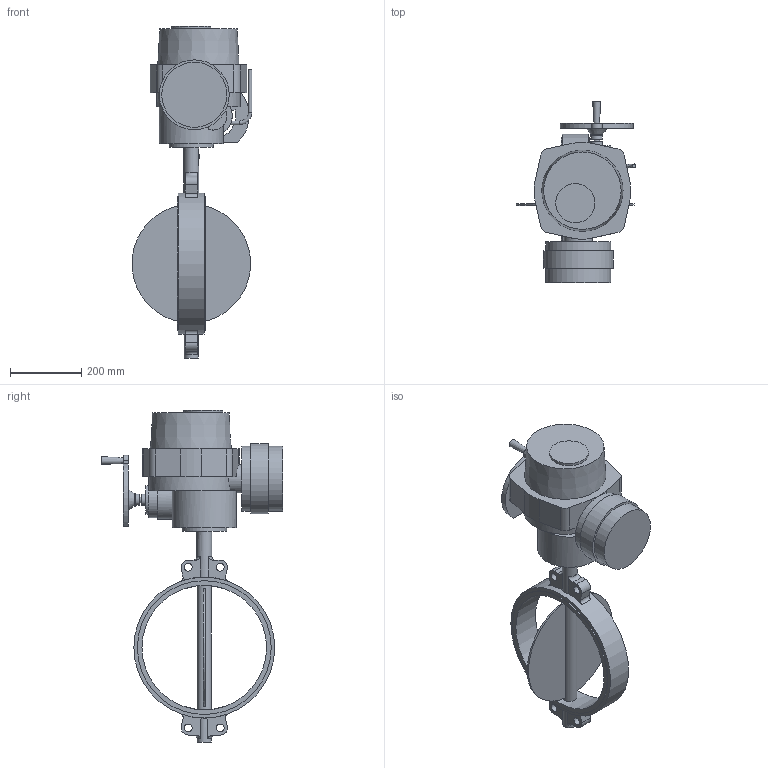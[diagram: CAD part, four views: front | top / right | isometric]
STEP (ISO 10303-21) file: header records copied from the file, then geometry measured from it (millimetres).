
FILE_DESCRIPTION(('STEP AP203'), '1');
FILE_NAME('青蜮铕 017W.Y_DN350_PN10_QT.A 080(F10)', '', ('UNSPECIFIED'), ('UNSPECIFIED'), 'ASCON STEP Converter 1.6', 'ASCON Math Kernel', '');
FILE_SCHEMA(('CONFIG_CONTROL_DESIGN'));
Length unit declared in the file: millimetre
Bounding box: 336.05 x 509 x 932 mm (x, y, z)
Volume: 21363859.2 mm3; surface area: 1070615.7 mm2
Topology: 1 solids, 1 shells, 181 faces, 419 edges, 277 vertices
Faces by surface type: plane 98, cylinder 75, torus 5, cone 3
Full cylindrical faces by diameter (mm): 10 x6, 12 x4, 14 x4, 16 x1, 22 x4, 32 x2, 35 x1, 40 x2, 42 x1, 80 x2, 100 x1, 110 x1, 125 x1, 180 x1, 183 x2, 196 x1, 350 x1, 375.6 x2, 395.6 x1
Entity records: 8207 total; most frequent: CARTESIAN_POINT 2598, DIRECTION 891, ORIENTED_EDGE 754, EDGE_CURVE 377, AXIS2_PLACEMENT_3D 362, EDGE_LOOP 278, VERTEX_POINT 277, FACE_BOUND 199
